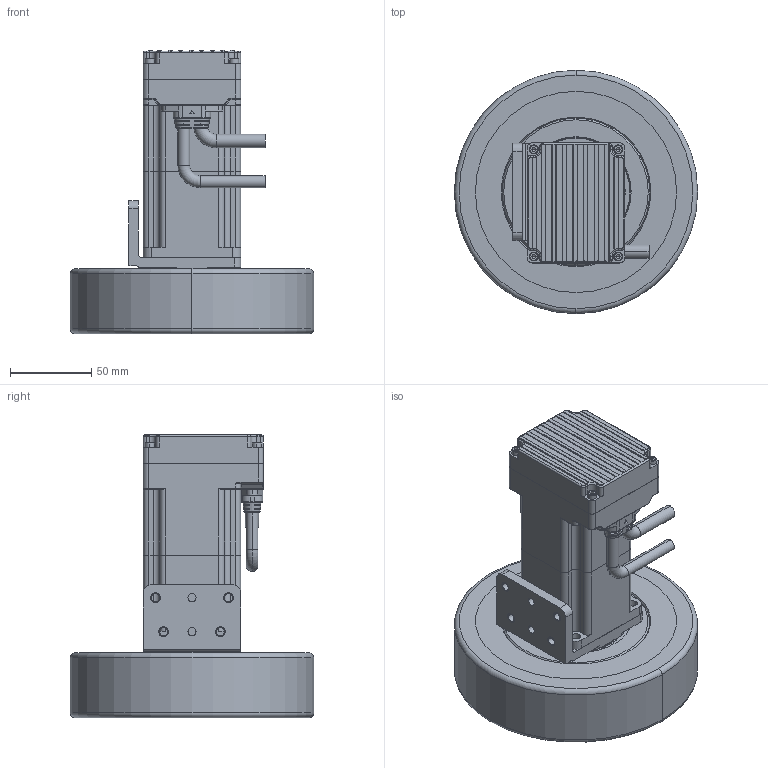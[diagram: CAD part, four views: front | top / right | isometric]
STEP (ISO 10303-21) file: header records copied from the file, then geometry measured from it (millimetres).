
FILE_DESCRIPTION (( 'STEP AP203' ), '1' );
FILE_NAME ('307091537SS（iWMC06006-00450-A150-MBDT-R）-V1.0.STEP', '2025-02-12T02:53:24', ( '' ), ( '' ), 'SwSTEP 2.0', 'SolidWorks 2023', '' );
FILE_SCHEMA (( 'CONFIG_CONTROL_DESIGN' ));
Products named in the file (1): 307091537SS（iWMC06006-00450-A150-MBDT-R）-V1.0
Bounding box: 150 x 150 x 174.7 mm (x, y, z)
Surface area: 271966.6 mm2 (no closed solid volume)
Topology: 0 solids, 147 shells, 3243 faces, 8664 edges, 5203 vertices
Faces by surface type: cylinder 1229, plane 948, sphere 536, torus 265, cone 204, bspline 61
Entity records: 128077 total; most frequent: CARTESIAN_POINT 52587, DIRECTION 16244, ORIENTED_EDGE 15542, EDGE_CURVE 7825, AXIS2_PLACEMENT_3D 6830, VERTEX_POINT 4943, CIRCLE 3647, EDGE_LOOP 3530
